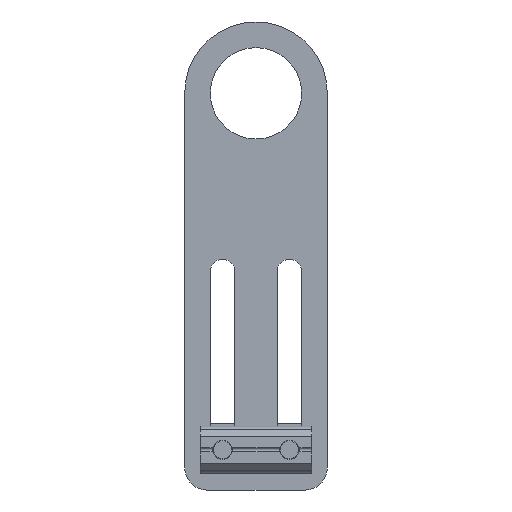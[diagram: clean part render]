
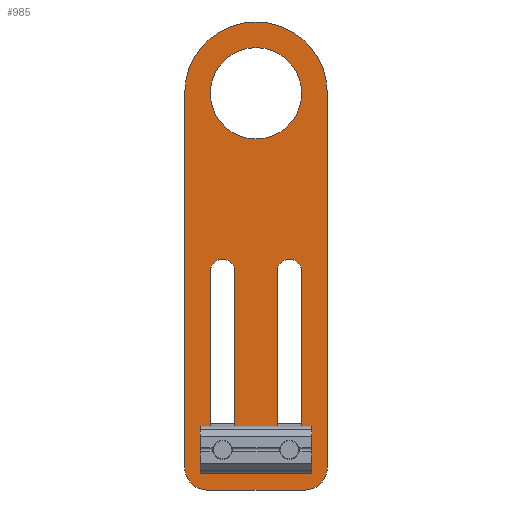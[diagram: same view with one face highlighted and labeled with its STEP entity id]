
A CAD part, front view. The second image highlights one B-rep face of the part: STEP entity #985.
In plain terms, the highlighted planar face has unit normal (0, -1, 0).
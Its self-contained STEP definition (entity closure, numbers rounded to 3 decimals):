
#985=ADVANCED_FACE('',(#1888,#1889,#1890,#1891),#1892,.F.);
#1888=FACE_BOUND('',#2750,.T.);
#1889=FACE_BOUND('',#2751,.T.);
#1890=FACE_BOUND('',#2752,.T.);
#1891=FACE_OUTER_BOUND('',#2753,.T.);
#1892=PLANE('',#2754);
#2750=EDGE_LOOP('',(#5281,#5282,#5283,#5284));
#2751=EDGE_LOOP('',(#5285));
#2752=EDGE_LOOP('',(#5286,#5287,#5288,#5289));
#2753=EDGE_LOOP('',(#5290,#5291,#5292,#5293,#5294,#5295,#5296));
#2754=AXIS2_PLACEMENT_3D('',#5297,#5298,#5299);
#5281=ORIENTED_EDGE('',*,*,#6367,.T.);
#5282=ORIENTED_EDGE('',*,*,#6368,.T.);
#5283=ORIENTED_EDGE('',*,*,#6369,.T.);
#5284=ORIENTED_EDGE('',*,*,#6370,.T.);
#5285=ORIENTED_EDGE('',*,*,#6371,.T.);
#5286=ORIENTED_EDGE('',*,*,#6372,.T.);
#5287=ORIENTED_EDGE('',*,*,#6327,.T.);
#5288=ORIENTED_EDGE('',*,*,#6331,.T.);
#5289=ORIENTED_EDGE('',*,*,#6373,.T.);
#5290=ORIENTED_EDGE('',*,*,#6374,.F.);
#5291=ORIENTED_EDGE('',*,*,#6354,.T.);
#5292=ORIENTED_EDGE('',*,*,#6342,.F.);
#5293=ORIENTED_EDGE('',*,*,#6333,.T.);
#5294=ORIENTED_EDGE('',*,*,#6338,.F.);
#5295=ORIENTED_EDGE('',*,*,#6351,.T.);
#5296=ORIENTED_EDGE('',*,*,#6346,.T.);
#5297=CARTESIAN_POINT('',(0.0,0.0,0.0));
#5298=DIRECTION('',(0.0,1.0,0.0));
#5299=DIRECTION('',(-1.0,0.0,0.0));
#6327=EDGE_CURVE('',#7824,#7829,#7831,.T.);
#6331=EDGE_CURVE('',#7829,#7835,#7837,.T.);
#6333=EDGE_CURVE('',#7839,#7840,#7841,.F.);
#6338=EDGE_CURVE('',#7848,#7840,#7849,.T.);
#6342=EDGE_CURVE('',#7839,#7854,#7855,.T.);
#6346=EDGE_CURVE('',#7860,#7861,#7862,.F.);
#6351=EDGE_CURVE('',#7848,#7860,#7869,.F.);
#6354=EDGE_CURVE('',#7872,#7854,#7873,.F.);
#6367=EDGE_CURVE('',#7893,#7894,#7895,.T.);
#6368=EDGE_CURVE('',#7894,#7896,#7897,.T.);
#6369=EDGE_CURVE('',#7896,#7898,#7899,.T.);
#6370=EDGE_CURVE('',#7898,#7893,#7900,.T.);
#6371=EDGE_CURVE('',#7901,#7901,#7902,.T.);
#6372=EDGE_CURVE('',#7903,#7824,#7904,.T.);
#6373=EDGE_CURVE('',#7835,#7903,#7905,.T.);
#6374=EDGE_CURVE('',#7872,#7861,#7906,.T.);
#7824=VERTEX_POINT('',#9895);
#7829=VERTEX_POINT('',#9901);
#7831=CIRCLE('',#9904,2.75);
#7835=VERTEX_POINT('',#9909);
#7837=LINE('',#9912,#9913);
#7839=VERTEX_POINT('',#9915);
#7840=VERTEX_POINT('',#9916);
#7841=CIRCLE('',#9917,5.0);
#7848=VERTEX_POINT('',#9926);
#7849=LINE('',#9927,#9928);
#7854=VERTEX_POINT('',#9935);
#7855=LINE('',#9936,#9937);
#7860=VERTEX_POINT('',#9944);
#7861=VERTEX_POINT('',#9945);
#7862=CIRCLE('',#9946,16.0);
#7869=CIRCLE('',#9955,16.0);
#7872=VERTEX_POINT('',#9958);
#7873=CIRCLE('',#9959,5.0);
#7893=VERTEX_POINT('',#9984);
#7894=VERTEX_POINT('',#9985);
#7895=LINE('',#9986,#9987);
#7896=VERTEX_POINT('',#9988);
#7897=CIRCLE('',#9989,2.75);
#7898=VERTEX_POINT('',#9990);
#7899=LINE('',#9991,#9992);
#7900=CIRCLE('',#9993,2.75);
#7901=VERTEX_POINT('',#9994);
#7902=CIRCLE('',#9995,10.25);
#7903=VERTEX_POINT('',#9996);
#7904=LINE('',#9997,#9998);
#7905=CIRCLE('',#9999,2.75);
#7906=LINE('',#10000,#10001);
#9895=CARTESIAN_POINT('',(-5.75,0.0,9.0));
#9901=CARTESIAN_POINT('',(-11.25,0.0,9.0));
#9904=AXIS2_PLACEMENT_3D('',#11197,#11198,#11199);
#9909=CARTESIAN_POINT('',(-11.25,0.0,49.0));
#9912=CARTESIAN_POINT('',(-11.25,0.0,0.));
#9913=VECTOR('',#11202,1.0);
#9915=CARTESIAN_POINT('',(-5.0,0.0,0.0));
#9916=CARTESIAN_POINT('',(0.,0.0,5.0));
#9917=AXIS2_PLACEMENT_3D('',#11203,#11204,#11205);
#9926=CARTESIAN_POINT('',(0.,0.0,89.0));
#9927=CARTESIAN_POINT('',(0.,0.0,52.5));
#9928=VECTOR('',#11211,1.0);
#9935=CARTESIAN_POINT('',(-27.0,0.0,0.0));
#9936=CARTESIAN_POINT('',(-16.0,0.0,0.0));
#9937=VECTOR('',#11214,1.0);
#9944=CARTESIAN_POINT('',(-16.0,0.0,105.0));
#9945=CARTESIAN_POINT('',(-32.0,0.0,89.0));
#9946=AXIS2_PLACEMENT_3D('',#11217,#11218,#11219);
#9955=AXIS2_PLACEMENT_3D('',#11225,#11226,#11227);
#9958=CARTESIAN_POINT('',(-32.0,0.0,5.0));
#9959=AXIS2_PLACEMENT_3D('',#11231,#11232,#11233);
#9984=CARTESIAN_POINT('',(-20.75,0.0,49.0));
#9985=CARTESIAN_POINT('',(-20.75,0.0,9.0));
#9986=CARTESIAN_POINT('',(-20.75,0.0,0.));
#9987=VECTOR('',#11254,1.0);
#9988=CARTESIAN_POINT('',(-26.25,0.0,9.0));
#9989=AXIS2_PLACEMENT_3D('',#11255,#11256,#11257);
#9990=CARTESIAN_POINT('',(-26.25,0.0,49.0));
#9991=CARTESIAN_POINT('',(-26.25,0.0,0.));
#9992=VECTOR('',#11258,1.0);
#9993=AXIS2_PLACEMENT_3D('',#11259,#11260,#11261);
#9994=CARTESIAN_POINT('',(-16.0,0.0,99.25));
#9995=AXIS2_PLACEMENT_3D('',#11262,#11263,#11264);
#9996=CARTESIAN_POINT('',(-5.75,0.0,49.0));
#9997=CARTESIAN_POINT('',(-5.75,0.0,0.));
#9998=VECTOR('',#11265,1.0);
#9999=AXIS2_PLACEMENT_3D('',#11266,#11267,#11268);
#10000=CARTESIAN_POINT('',(-32.0,0.0,52.5));
#10001=VECTOR('',#11269,1.0);
#11197=CARTESIAN_POINT('',(-8.5,0.0,9.0));
#11198=DIRECTION('',(0.0,1.0,0.0));
#11199=DIRECTION('',(0.0,0.0,1.0));
#11202=DIRECTION('',(0.,0.0,1.0));
#11203=CARTESIAN_POINT('',(-5.0,0.0,5.0));
#11204=DIRECTION('',(0.0,1.0,0.0));
#11205=DIRECTION('',(0.0,0.0,1.0));
#11211=DIRECTION('',(0.,0.0,-1.0));
#11214=DIRECTION('',(-1.0,0.0,0.0));
#11217=CARTESIAN_POINT('',(-16.0,0.0,89.0));
#11218=DIRECTION('',(0.0,1.0,0.0));
#11219=DIRECTION('',(0.0,0.0,1.0));
#11225=CARTESIAN_POINT('',(-16.0,0.0,89.0));
#11226=DIRECTION('',(0.0,1.0,0.0));
#11227=DIRECTION('',(0.0,0.0,1.0));
#11231=CARTESIAN_POINT('',(-27.0,0.0,5.0));
#11232=DIRECTION('',(0.0,1.0,0.0));
#11233=DIRECTION('',(0.0,0.0,1.0));
#11254=DIRECTION('',(0.,0.0,-1.0));
#11255=CARTESIAN_POINT('',(-23.5,0.0,9.0));
#11256=DIRECTION('',(0.0,1.0,0.0));
#11257=DIRECTION('',(0.0,0.0,1.0));
#11258=DIRECTION('',(0.,0.0,1.0));
#11259=CARTESIAN_POINT('',(-23.5,0.0,49.0));
#11260=DIRECTION('',(0.0,1.0,0.0));
#11261=DIRECTION('',(0.0,0.0,1.0));
#11262=CARTESIAN_POINT('',(-16.0,0.0,89.0));
#11263=DIRECTION('',(0.0,1.0,0.0));
#11264=DIRECTION('',(0.0,0.0,1.0));
#11265=DIRECTION('',(0.,0.0,-1.0));
#11266=CARTESIAN_POINT('',(-8.5,0.0,49.0));
#11267=DIRECTION('',(0.0,1.0,0.0));
#11268=DIRECTION('',(0.0,0.0,1.0));
#11269=DIRECTION('',(0.,0.0,1.0));
